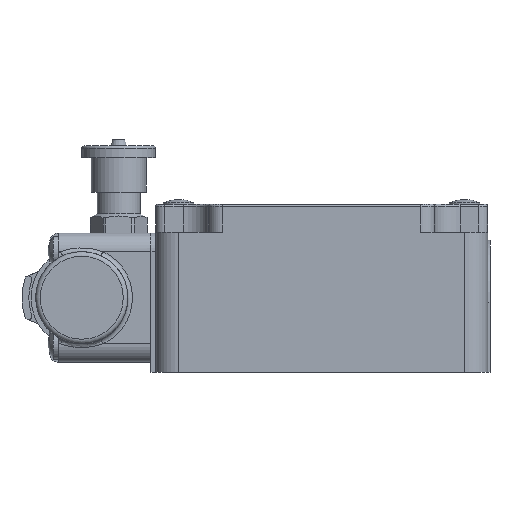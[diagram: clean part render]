
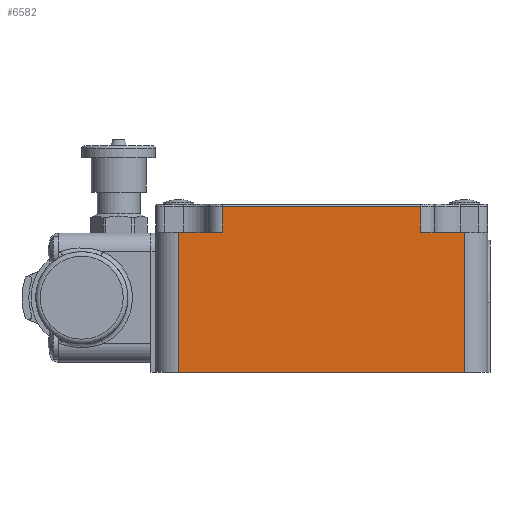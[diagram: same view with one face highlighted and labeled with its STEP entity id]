
A CAD part, left-side view. The second image highlights one B-rep face of the part: STEP entity #6582.
In plain terms, the highlighted planar face has unit normal (-1, 0, 0) as drawn and (1, 0, 0) by its records, which use the part's own axes.
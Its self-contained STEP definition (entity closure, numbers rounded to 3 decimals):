
#5798=CARTESIAN_POINT('',(20.,31.0,-14.2));
#5799=VERTEX_POINT('',#5798);
#5807=CARTESIAN_POINT('',(20.,21.5,-14.2));
#5808=VERTEX_POINT('',#5807);
#5809=CARTESIAN_POINT('',(20.,31.0,-14.2));
#5810=DIRECTION('',(0.0,-1.0,0.0));
#5811=VECTOR('',#5810,9.5);
#5812=LINE('',#5809,#5811);
#5813=EDGE_CURVE('',#5799,#5808,#5812,.T.);
#6367=CARTESIAN_POINT('',(20.,-31.0,-14.2));
#6368=VERTEX_POINT('',#6367);
#6376=CARTESIAN_POINT('',(20.,-31.0,16.2));
#6377=VERTEX_POINT('',#6376);
#6378=CARTESIAN_POINT('',(20.,-31.0,-14.2));
#6379=DIRECTION('',(0.0,0.0,1.0));
#6380=VECTOR('',#6379,30.4);
#6381=LINE('',#6378,#6380);
#6382=EDGE_CURVE('',#6368,#6377,#6381,.T.);
#6516=CARTESIAN_POINT('',(20.,31.0,16.2));
#6517=VERTEX_POINT('',#6516);
#6518=CARTESIAN_POINT('',(20.,31.0,-14.2));
#6519=DIRECTION('',(0.0,0.0,1.0));
#6520=VECTOR('',#6519,30.4);
#6521=LINE('',#6518,#6520);
#6522=EDGE_CURVE('',#5799,#6517,#6521,.T.);
#6536=CARTESIAN_POINT('',(20.,-31.0,-20.3));
#6537=DIRECTION('',(1.0,0.0,0.0));
#6538=DIRECTION('',(0.0,0.0,-1.0));
#6539=AXIS2_PLACEMENT_3D('',#6536,#6537,#6538);
#6540=PLANE('',#6539);
#6541=CARTESIAN_POINT('',(20.,-21.5,-14.2));
#6542=VERTEX_POINT('',#6541);
#6543=CARTESIAN_POINT('',(20.,-21.5,-19.8));
#6544=VERTEX_POINT('',#6543);
#6545=CARTESIAN_POINT('',(20.,-21.5,-14.2));
#6546=DIRECTION('',(0.0,0.0,-1.0));
#6547=VECTOR('',#6546,5.6);
#6548=LINE('',#6545,#6547);
#6549=EDGE_CURVE('',#6542,#6544,#6548,.T.);
#6550=ORIENTED_EDGE('',*,*,#6549,.T.);
#6551=CARTESIAN_POINT('',(20.,21.5,-19.8));
#6552=VERTEX_POINT('',#6551);
#6553=CARTESIAN_POINT('',(20.,-21.5,-19.8));
#6554=DIRECTION('',(0.0,1.0,0.0));
#6555=VECTOR('',#6554,43.);
#6556=LINE('',#6553,#6555);
#6557=EDGE_CURVE('',#6544,#6552,#6556,.T.);
#6558=ORIENTED_EDGE('',*,*,#6557,.T.);
#6559=CARTESIAN_POINT('',(20.,21.5,-14.2));
#6560=DIRECTION('',(0.0,0.0,-1.0));
#6561=VECTOR('',#6560,5.6);
#6562=LINE('',#6559,#6561);
#6563=EDGE_CURVE('',#5808,#6552,#6562,.T.);
#6564=ORIENTED_EDGE('',*,*,#6563,.F.);
#6565=ORIENTED_EDGE('',*,*,#5813,.F.);
#6566=ORIENTED_EDGE('',*,*,#6522,.T.);
#6567=CARTESIAN_POINT('',(20.,-31.0,16.2));
#6568=DIRECTION('',(0.0,1.0,0.0));
#6569=VECTOR('',#6568,62.0);
#6570=LINE('',#6567,#6569);
#6571=EDGE_CURVE('',#6377,#6517,#6570,.T.);
#6572=ORIENTED_EDGE('',*,*,#6571,.F.);
#6573=ORIENTED_EDGE('',*,*,#6382,.F.);
#6574=CARTESIAN_POINT('',(20.,-21.5,-14.2));
#6575=DIRECTION('',(0.0,-1.0,0.0));
#6576=VECTOR('',#6575,9.5);
#6577=LINE('',#6574,#6576);
#6578=EDGE_CURVE('',#6542,#6368,#6577,.T.);
#6579=ORIENTED_EDGE('',*,*,#6578,.F.);
#6580=EDGE_LOOP('',(#6550,#6558,#6564,#6565,#6566,#6572,#6573,#6579));
#6581=FACE_OUTER_BOUND('',#6580,.T.);
#6582=ADVANCED_FACE('',(#6581),#6540,.T.);
